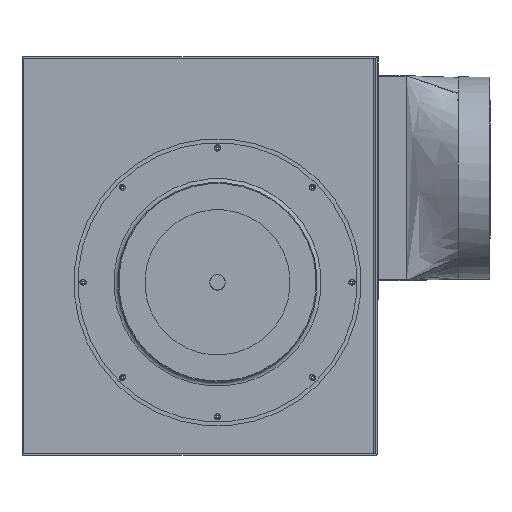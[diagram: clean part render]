
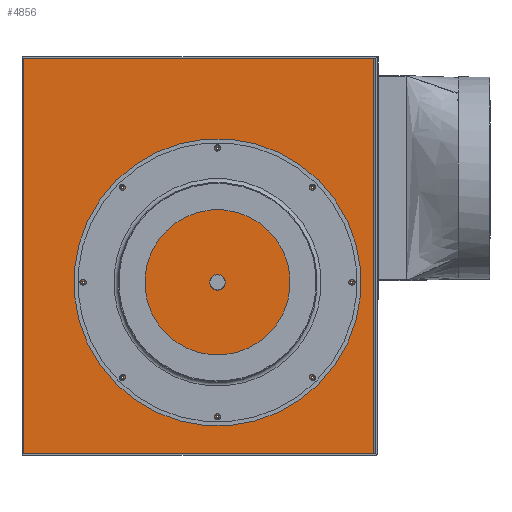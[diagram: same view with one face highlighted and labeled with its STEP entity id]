
A CAD part, front view. The second image highlights one B-rep face of the part: STEP entity #4856.
In plain terms, the highlighted planar face has unit normal (0, -1, 0) as drawn and (1, 0, 0) by its records, which use the part's own axes.
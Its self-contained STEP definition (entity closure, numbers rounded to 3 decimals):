
#159=CIRCLE('',#5254,1.5);
#160=CIRCLE('',#5255,1.5);
#161=CIRCLE('',#5256,1.5);
#162=CIRCLE('',#5257,1.5);
#163=CIRCLE('',#5258,1.5);
#164=CIRCLE('',#5259,1.5);
#165=CIRCLE('',#5260,1.5);
#166=CIRCLE('',#5261,1.5);
#167=CIRCLE('',#5262,10.);
#671=ORIENTED_EDGE('',*,*,#1911,.F.);
#672=ORIENTED_EDGE('',*,*,#1925,.F.);
#673=ORIENTED_EDGE('',*,*,#1923,.F.);
#674=ORIENTED_EDGE('',*,*,#1926,.F.);
#675=ORIENTED_EDGE('',*,*,#1927,.F.);
#676=ORIENTED_EDGE('',*,*,#1928,.F.);
#677=ORIENTED_EDGE('',*,*,#1929,.F.);
#678=ORIENTED_EDGE('',*,*,#1930,.F.);
#679=ORIENTED_EDGE('',*,*,#1931,.F.);
#680=ORIENTED_EDGE('',*,*,#1932,.F.);
#681=ORIENTED_EDGE('',*,*,#1933,.F.);
#682=ORIENTED_EDGE('',*,*,#1934,.F.);
#683=ORIENTED_EDGE('',*,*,#1935,.F.);
#684=ORIENTED_EDGE('',*,*,#1936,.F.);
#685=ORIENTED_EDGE('',*,*,#1937,.F.);
#1911=EDGE_CURVE('',#2544,#2545,#2974,.T.);
#1923=EDGE_CURVE('',#2551,#2552,#2984,.T.);
#1925=EDGE_CURVE('',#2552,#2544,#2986,.T.);
#1926=EDGE_CURVE('',#2553,#2551,#2987,.T.);
#1927=EDGE_CURVE('',#2554,#2553,#2988,.T.);
#1928=EDGE_CURVE('',#2545,#2554,#2989,.T.);
#1929=EDGE_CURVE('',#2555,#2555,#159,.F.);
#1930=EDGE_CURVE('',#2556,#2556,#160,.F.);
#1931=EDGE_CURVE('',#2557,#2557,#161,.F.);
#1932=EDGE_CURVE('',#2558,#2558,#162,.F.);
#1933=EDGE_CURVE('',#2559,#2559,#163,.F.);
#1934=EDGE_CURVE('',#2560,#2560,#164,.F.);
#1935=EDGE_CURVE('',#2561,#2561,#165,.F.);
#1936=EDGE_CURVE('',#2562,#2562,#166,.F.);
#1937=EDGE_CURVE('',#2563,#2563,#167,.T.);
#2544=VERTEX_POINT('',#7378);
#2545=VERTEX_POINT('',#7380);
#2551=VERTEX_POINT('',#7400);
#2552=VERTEX_POINT('',#7402);
#2553=VERTEX_POINT('',#7407);
#2554=VERTEX_POINT('',#7409);
#2555=VERTEX_POINT('',#7412);
#2556=VERTEX_POINT('',#7414);
#2557=VERTEX_POINT('',#7416);
#2558=VERTEX_POINT('',#7418);
#2559=VERTEX_POINT('',#7420);
#2560=VERTEX_POINT('',#7422);
#2561=VERTEX_POINT('',#7424);
#2562=VERTEX_POINT('',#7426);
#2563=VERTEX_POINT('',#7428);
#2974=LINE('',#7379,#3291);
#2984=LINE('',#7401,#3301);
#2986=LINE('',#7405,#3303);
#2987=LINE('',#7406,#3304);
#2988=LINE('',#7408,#3305);
#2989=LINE('',#7410,#3306);
#3291=VECTOR('',#5931,1000.);
#3301=VECTOR('',#5951,1000.);
#3303=VECTOR('',#5955,1000.);
#3304=VECTOR('',#5956,1000.);
#3305=VECTOR('',#5957,1000.);
#3306=VECTOR('',#5958,1000.);
#3643=EDGE_LOOP('',(#671,#672,#673,#674,#675,#676));
#3644=EDGE_LOOP('',(#677));
#3645=EDGE_LOOP('',(#678));
#3646=EDGE_LOOP('',(#679));
#3647=EDGE_LOOP('',(#680));
#3648=EDGE_LOOP('',(#681));
#3649=EDGE_LOOP('',(#682));
#3650=EDGE_LOOP('',(#683));
#3651=EDGE_LOOP('',(#684));
#3652=EDGE_LOOP('',(#685));
#4212=FACE_BOUND('',#3643,.T.);
#4213=FACE_BOUND('',#3644,.T.);
#4214=FACE_BOUND('',#3645,.T.);
#4215=FACE_BOUND('',#3646,.T.);
#4216=FACE_BOUND('',#3647,.T.);
#4217=FACE_BOUND('',#3648,.T.);
#4218=FACE_BOUND('',#3649,.T.);
#4219=FACE_BOUND('',#3650,.T.);
#4220=FACE_BOUND('',#3651,.T.);
#4221=FACE_BOUND('',#3652,.T.);
#4723=PLANE('',#5253);
#4856=ADVANCED_FACE('',(#4212,#4213,#4214,#4215,#4216,#4217,#4218,#4219,
#4220,#4221),#4723,.T.);
#5253=AXIS2_PLACEMENT_3D('',#7404,#5953,#5954);
#5254=AXIS2_PLACEMENT_3D('',#7411,#5959,#5960);
#5255=AXIS2_PLACEMENT_3D('',#7413,#5961,#5962);
#5256=AXIS2_PLACEMENT_3D('',#7415,#5963,#5964);
#5257=AXIS2_PLACEMENT_3D('',#7417,#5965,#5966);
#5258=AXIS2_PLACEMENT_3D('',#7419,#5967,#5968);
#5259=AXIS2_PLACEMENT_3D('',#7421,#5969,#5970);
#5260=AXIS2_PLACEMENT_3D('',#7423,#5971,#5972);
#5261=AXIS2_PLACEMENT_3D('',#7425,#5973,#5974);
#5262=AXIS2_PLACEMENT_3D('',#7427,#5975,#5976);
#5931=DIRECTION('',(0.,1.,0.));
#5951=DIRECTION('',(0.,0.,1.));
#5953=DIRECTION('',(1.,0.,0.));
#5954=DIRECTION('',(0.,-1.,0.));
#5955=DIRECTION('',(0.,0.707,0.707));
#5956=DIRECTION('',(0.,-0.707,0.707));
#5957=DIRECTION('',(0.,-1.,0.));
#5958=DIRECTION('',(0.,0.,-1.));
#5959=DIRECTION('',(-1.,0.,0.));
#5960=DIRECTION('',(0.,-1.,0.));
#5961=DIRECTION('',(-1.,0.,0.));
#5962=DIRECTION('',(0.,-1.,0.));
#5963=DIRECTION('',(-1.,0.,0.));
#5964=DIRECTION('',(0.,-1.,0.));
#5965=DIRECTION('',(-1.,0.,0.));
#5966=DIRECTION('',(0.,-1.,0.));
#5967=DIRECTION('',(-1.,0.,0.));
#5968=DIRECTION('',(0.,-1.,0.));
#5969=DIRECTION('',(-1.,0.,0.));
#5970=DIRECTION('',(0.,-1.,0.));
#5971=DIRECTION('',(-1.,0.,0.));
#5972=DIRECTION('',(0.,-1.,0.));
#5973=DIRECTION('',(-1.,0.,0.));
#5974=DIRECTION('',(0.,-1.,0.));
#5975=DIRECTION('',(1.,0.,0.));
#5976=DIRECTION('',(0.,1.,0.));
#7378=CARTESIAN_POINT('',(164.,-241.,281.));
#7379=CARTESIAN_POINT('',(164.,-241.,281.));
#7380=CARTESIAN_POINT('',(164.,196.,281.));
#7400=CARTESIAN_POINT('',(164.,-243.,-213.));
#7401=CARTESIAN_POINT('',(164.,-243.,-213.));
#7402=CARTESIAN_POINT('',(164.,-243.,279.));
#7404=CARTESIAN_POINT('',(164.,0.,0.));
#7405=CARTESIAN_POINT('',(164.,-241.,281.));
#7406=CARTESIAN_POINT('',(164.,-241.,-215.));
#7407=CARTESIAN_POINT('',(164.,-241.,-215.));
#7408=CARTESIAN_POINT('',(164.,196.,-215.));
#7409=CARTESIAN_POINT('',(164.,196.,-215.));
#7410=CARTESIAN_POINT('',(164.,196.,0.));
#7411=CARTESIAN_POINT('',(164.,118.794,118.794));
#7412=CARTESIAN_POINT('',(164.,117.294,118.794));
#7413=CARTESIAN_POINT('',(164.,168.,0.));
#7414=CARTESIAN_POINT('',(164.,166.5,0.));
#7415=CARTESIAN_POINT('',(164.,-168.,0.));
#7416=CARTESIAN_POINT('',(164.,-169.5,0.));
#7417=CARTESIAN_POINT('',(164.,-118.794,118.794));
#7418=CARTESIAN_POINT('',(164.,-120.294,118.794));
#7419=CARTESIAN_POINT('',(164.,118.794,-118.794));
#7420=CARTESIAN_POINT('',(164.,117.294,-118.794));
#7421=CARTESIAN_POINT('',(164.,0.,-168.));
#7422=CARTESIAN_POINT('',(164.,-1.5,-168.));
#7423=CARTESIAN_POINT('',(164.,-118.794,-118.794));
#7424=CARTESIAN_POINT('',(164.,-120.294,-118.794));
#7425=CARTESIAN_POINT('',(164.,0.,168.));
#7426=CARTESIAN_POINT('',(164.,-1.5,168.));
#7427=CARTESIAN_POINT('',(164.,0.,0.));
#7428=CARTESIAN_POINT('',(164.,10.,0.));
